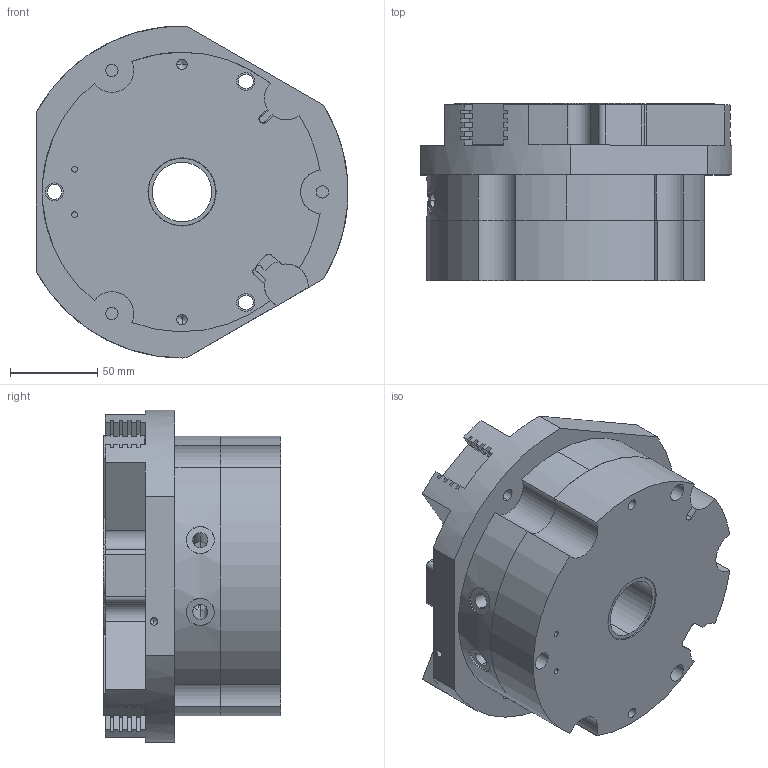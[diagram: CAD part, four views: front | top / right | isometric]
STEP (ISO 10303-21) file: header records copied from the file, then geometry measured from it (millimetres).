
FILE_DESCRIPTION (( 'STEP AP214' ), '1' );
FILE_NAME ('THB-160A-1-AS.STEP', '2021-01-18T02:50:55', ( '' ), ( '' ), 'SwSTEP 2.0', 'SolidWorks 2016', '' );
FILE_SCHEMA (( 'AUTOMOTIVE_DESIGN' ));
Length unit declared in the file: millimetre
Products named in the file (6): THB-160A-1-AS-01; THB-160A-1-AS; THB-160A-1-AS-05; THB-160A-1-AS-04; THB-160A-1-AS-02; THB-160A-1-AS-03
Assembly tree (7 placements, depth 2):
  THB-160A-1-AS
    THB-160A-1-AS-01
    THB-160A-1-AS-02  x3
    THB-160A-1-AS-03
    THB-160A-1-AS-04
    THB-160A-1-AS-05
Bounding box: 178.4 x 101.5 x 189.97 mm (x, y, z)
Volume: 1748767.6 mm3; surface area: 257890.6 mm2
Topology: 7 solids, 7 shells, 553 faces, 1559 edges, 1018 vertices
Faces by surface type: plane 303, cylinder 194, cone 56
Entity records: 14909 total; most frequent: CARTESIAN_POINT 2612, DIRECTION 2591, ORIENTED_EDGE 2406, EDGE_CURVE 1203, AXIS2_PLACEMENT_3D 949, VERTEX_POINT 798, VECTOR 693, LINE 693
